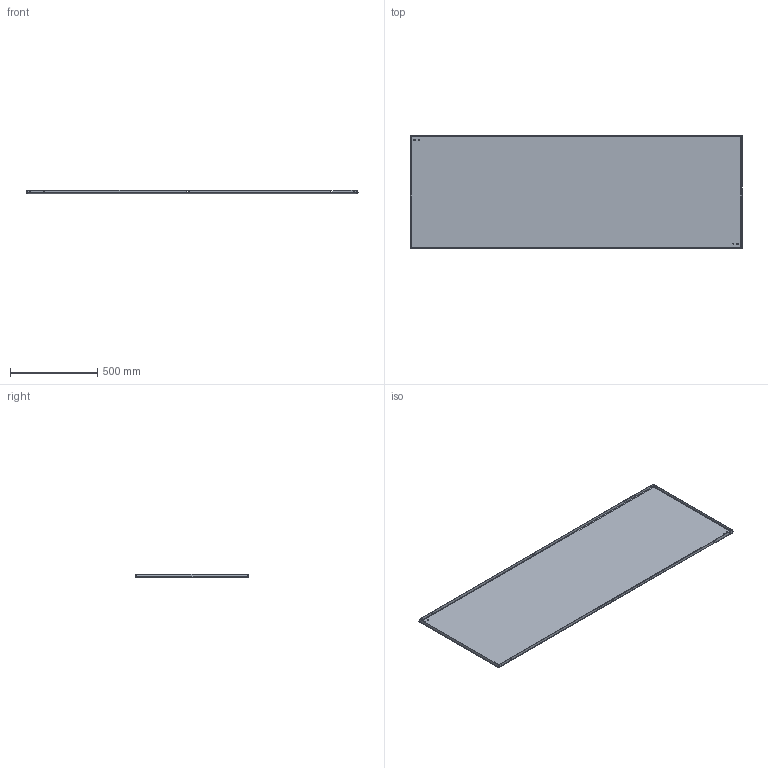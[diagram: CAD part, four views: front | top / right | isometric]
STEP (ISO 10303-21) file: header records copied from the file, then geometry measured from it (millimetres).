
FILE_DESCRIPTION (( 'STEP AP203' ), '1' );
FILE_NAME ('ppfsm208.STEP', '2012-12-18T14:48:04', ( 'User' ), ( 'Pentair Inc' ), 'SwSTEP 2.0', 'SolidWorks 2010', '' );
FILE_SCHEMA (( 'CONFIG_CONTROL_DESIGN' ));
Length unit declared in the file: inch
Products named in the file (2): ppfsm208; 87547444_87547444
Assembly tree (1 placements, depth 2):
  ppfsm208
    87547444_87547444
Bounding box: 1907.98 x 646.99 x 20.9 mm (x, y, z)
Volume: 3248156.3 mm3; surface area: 2650373.8 mm2
Topology: 1 solids, 1 shells, 121 faces, 307 edges, 194 vertices
Faces by surface type: plane 90, cylinder 31
Entity records: 3831 total; most frequent: CARTESIAN_POINT 626, DIRECTION 623, ORIENTED_EDGE 614, EDGE_CURVE 307, LINE 241, VECTOR 241, VERTEX_POINT 194, AXIS2_PLACEMENT_3D 191
